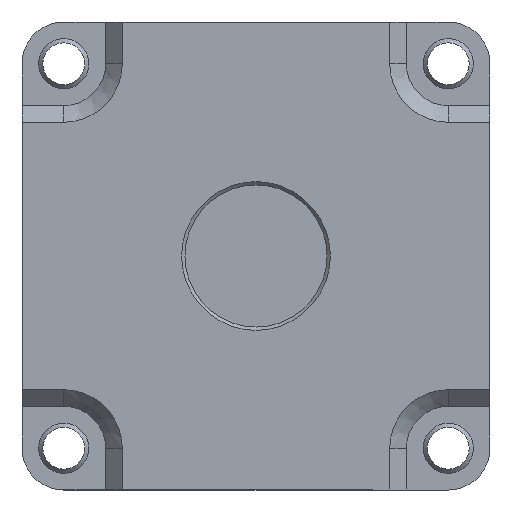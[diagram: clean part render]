
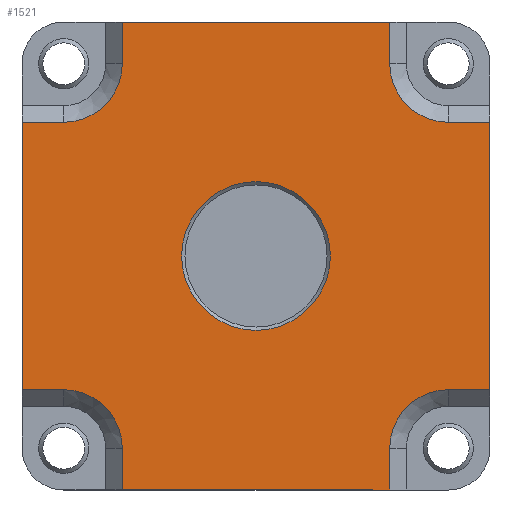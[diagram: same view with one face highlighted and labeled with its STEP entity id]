
A CAD part, front view. The second image highlights one B-rep face of the part: STEP entity #1521.
In plain terms, the highlighted planar face has unit normal (0, -1, 0).
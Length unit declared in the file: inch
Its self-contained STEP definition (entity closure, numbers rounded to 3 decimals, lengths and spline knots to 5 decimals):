
#24=FACE_BOUND('',#232,.T.);
#63=PLANE('',#1696);
#136=FACE_OUTER_BOUND('',#231,.T.);
#231=EDGE_LOOP('',(#1206,#1207,#1208,#1209,#1210,#1211,#1212,#1213,#1214,
#1215,#1216,#1217,#1218,#1219,#1220,#1221));
#232=EDGE_LOOP('',(#1222));
#300=CIRCLE('',#1652,0.1378);
#306=CIRCLE('',#1664,0.1378);
#312=CIRCLE('',#1678,0.1378);
#315=CIRCLE('',#1689,0.1378);
#318=CIRCLE('',#1695,0.1752);
#380=LINE('',#2372,#516);
#387=LINE('',#2389,#523);
#397=LINE('',#2423,#533);
#404=LINE('',#2436,#540);
#414=LINE('',#2470,#550);
#421=LINE('',#2483,#557);
#429=LINE('',#2507,#565);
#433=LINE('',#2520,#569);
#434=LINE('',#2522,#570);
#435=LINE('',#2523,#571);
#436=LINE('',#2524,#572);
#437=LINE('',#2525,#573);
#516=VECTOR('',#1924,0.09843);
#523=VECTOR('',#1943,0.09843);
#533=VECTOR('',#1973,0.09843);
#540=VECTOR('',#1988,0.09843);
#550=VECTOR('',#2018,0.09843);
#557=VECTOR('',#2033,0.09843);
#565=VECTOR('',#2055,0.09843);
#569=VECTOR('',#2071,0.62992);
#570=VECTOR('',#2072,0.09843);
#571=VECTOR('',#2073,0.62992);
#572=VECTOR('',#2074,0.62992);
#573=VECTOR('',#2075,0.62992);
#662=VERTEX_POINT('',#2365);
#665=VERTEX_POINT('',#2370);
#666=VERTEX_POINT('',#2374);
#669=VERTEX_POINT('',#2387);
#678=VERTEX_POINT('',#2410);
#681=VERTEX_POINT('',#2415);
#683=VERTEX_POINT('',#2421);
#685=VERTEX_POINT('',#2434);
#694=VERTEX_POINT('',#2457);
#697=VERTEX_POINT('',#2462);
#699=VERTEX_POINT('',#2468);
#701=VERTEX_POINT('',#2481);
#708=VERTEX_POINT('',#2500);
#709=VERTEX_POINT('',#2502);
#710=VERTEX_POINT('',#2506);
#713=VERTEX_POINT('',#2516);
#714=VERTEX_POINT('',#2521);
#829=EDGE_CURVE('',#662,#665,#380,.T.);
#832=EDGE_CURVE('',#666,#662,#300,.T.);
#838=EDGE_CURVE('',#669,#666,#387,.T.);
#851=EDGE_CURVE('',#678,#681,#306,.T.);
#854=EDGE_CURVE('',#681,#683,#397,.T.);
#861=EDGE_CURVE('',#685,#678,#404,.T.);
#874=EDGE_CURVE('',#694,#697,#312,.T.);
#877=EDGE_CURVE('',#697,#699,#414,.T.);
#884=EDGE_CURVE('',#701,#694,#421,.T.);
#893=EDGE_CURVE('',#709,#708,#315,.T.);
#895=EDGE_CURVE('',#710,#709,#429,.T.);
#901=EDGE_CURVE('',#713,#713,#318,.T.);
#902=EDGE_CURVE('',#665,#710,#433,.T.);
#903=EDGE_CURVE('',#708,#714,#434,.T.);
#904=EDGE_CURVE('',#714,#701,#435,.T.);
#905=EDGE_CURVE('',#699,#685,#436,.T.);
#906=EDGE_CURVE('',#683,#669,#437,.T.);
#1206=ORIENTED_EDGE('',*,*,#902,.T.);
#1207=ORIENTED_EDGE('',*,*,#895,.T.);
#1208=ORIENTED_EDGE('',*,*,#893,.T.);
#1209=ORIENTED_EDGE('',*,*,#903,.T.);
#1210=ORIENTED_EDGE('',*,*,#904,.T.);
#1211=ORIENTED_EDGE('',*,*,#884,.T.);
#1212=ORIENTED_EDGE('',*,*,#874,.T.);
#1213=ORIENTED_EDGE('',*,*,#877,.T.);
#1214=ORIENTED_EDGE('',*,*,#905,.T.);
#1215=ORIENTED_EDGE('',*,*,#861,.T.);
#1216=ORIENTED_EDGE('',*,*,#851,.T.);
#1217=ORIENTED_EDGE('',*,*,#854,.T.);
#1218=ORIENTED_EDGE('',*,*,#906,.T.);
#1219=ORIENTED_EDGE('',*,*,#838,.T.);
#1220=ORIENTED_EDGE('',*,*,#832,.T.);
#1221=ORIENTED_EDGE('',*,*,#829,.T.);
#1222=ORIENTED_EDGE('',*,*,#901,.T.);
#1521=ADVANCED_FACE('',(#136,#24),#63,.F.);
#1652=AXIS2_PLACEMENT_3D('',#2378,#1930,#1931);
#1664=AXIS2_PLACEMENT_3D('',#2417,#1967,#1968);
#1678=AXIS2_PLACEMENT_3D('',#2464,#2012,#2013);
#1689=AXIS2_PLACEMENT_3D('',#2503,#2050,#2051);
#1695=AXIS2_PLACEMENT_3D('',#2518,#2067,#2068);
#1696=AXIS2_PLACEMENT_3D('',#2519,#2069,#2070);
#1924=DIRECTION('',(1.,0.,0.));
#1930=DIRECTION('center_axis',(0.,1.,0.));
#1931=DIRECTION('ref_axis',(-1.,0.,0.));
#1943=DIRECTION('',(0.,0.,1.));
#1967=DIRECTION('center_axis',(0.,1.,0.));
#1968=DIRECTION('ref_axis',(-1.,0.,0.));
#1973=DIRECTION('',(0.,0.,-1.));
#1988=DIRECTION('',(1.,0.,0.));
#2012=DIRECTION('center_axis',(0.,1.,0.));
#2013=DIRECTION('ref_axis',(-1.,0.,0.));
#2018=DIRECTION('',(-1.,0.,0.));
#2033=DIRECTION('',(0.,0.,-1.));
#2050=DIRECTION('center_axis',(0.,1.,0.));
#2051=DIRECTION('ref_axis',(-1.,0.,0.));
#2055=DIRECTION('',(-1.,0.,0.));
#2067=DIRECTION('center_axis',(0.,1.,0.));
#2068=DIRECTION('ref_axis',(-1.,0.,0.));
#2069=DIRECTION('center_axis',(0.,1.,0.));
#2070=DIRECTION('ref_axis',(0.,0.,1.));
#2071=DIRECTION('',(0.,0.,1.));
#2072=DIRECTION('',(0.,0.,1.));
#2073=DIRECTION('',(-1.,0.,0.));
#2074=DIRECTION('',(0.,0.,-1.));
#2075=DIRECTION('',(1.,0.,0.));
#2365=CARTESIAN_POINT('',(-1.77267,-0.09968,0.52228));
#2370=CARTESIAN_POINT('',(-1.67424,-0.09968,0.52228));
#2372=CARTESIAN_POINT('',(-1.77267,-0.09968,0.52228));
#2374=CARTESIAN_POINT('',(-1.91046,-0.09968,0.38448));
#2378=CARTESIAN_POINT('Origin',(-1.77267,-0.09968,0.38448));
#2387=CARTESIAN_POINT('',(-1.91046,-0.09968,0.28606));
#2389=CARTESIAN_POINT('',(-1.91046,-0.09968,0.28606));
#2410=CARTESIAN_POINT('',(-2.67818,-0.09968,0.52228));
#2415=CARTESIAN_POINT('',(-2.54038,-0.09968,0.38448));
#2417=CARTESIAN_POINT('Origin',(-2.67818,-0.09968,0.38448));
#2421=CARTESIAN_POINT('',(-2.54038,-0.09968,0.28606));
#2423=CARTESIAN_POINT('',(-2.54038,-0.09968,0.38448));
#2434=CARTESIAN_POINT('',(-2.7766,-0.09968,0.52228));
#2436=CARTESIAN_POINT('',(-2.7766,-0.09968,0.52228));
#2457=CARTESIAN_POINT('',(-2.54038,-0.09968,1.28999));
#2462=CARTESIAN_POINT('',(-2.67818,-0.09968,1.1522));
#2464=CARTESIAN_POINT('Origin',(-2.67818,-0.09968,1.28999));
#2468=CARTESIAN_POINT('',(-2.7766,-0.09968,1.1522));
#2470=CARTESIAN_POINT('',(-2.67818,-0.09968,1.1522));
#2481=CARTESIAN_POINT('',(-2.54038,-0.09968,1.38842));
#2483=CARTESIAN_POINT('',(-2.54038,-0.09968,1.38842));
#2500=CARTESIAN_POINT('',(-1.91046,-0.09968,1.28999));
#2502=CARTESIAN_POINT('',(-1.77267,-0.09968,1.1522));
#2503=CARTESIAN_POINT('Origin',(-1.77267,-0.09968,1.28999));
#2506=CARTESIAN_POINT('',(-1.67424,-0.09968,1.1522));
#2507=CARTESIAN_POINT('',(-1.67424,-0.09968,1.1522));
#2516=CARTESIAN_POINT('',(-2.40062,-0.09968,0.83724));
#2518=CARTESIAN_POINT('Origin',(-2.22542,-0.09968,0.83724));
#2519=CARTESIAN_POINT('Origin',(-1.67424,-0.09968,0.28606));
#2520=CARTESIAN_POINT('',(-1.67424,-0.09968,0.52228));
#2521=CARTESIAN_POINT('',(-1.91046,-0.09968,1.38842));
#2522=CARTESIAN_POINT('',(-1.91046,-0.09968,1.28999));
#2523=CARTESIAN_POINT('',(-1.91046,-0.09968,1.38842));
#2524=CARTESIAN_POINT('',(-2.7766,-0.09968,1.1522));
#2525=CARTESIAN_POINT('',(-2.54038,-0.09968,0.28606));
